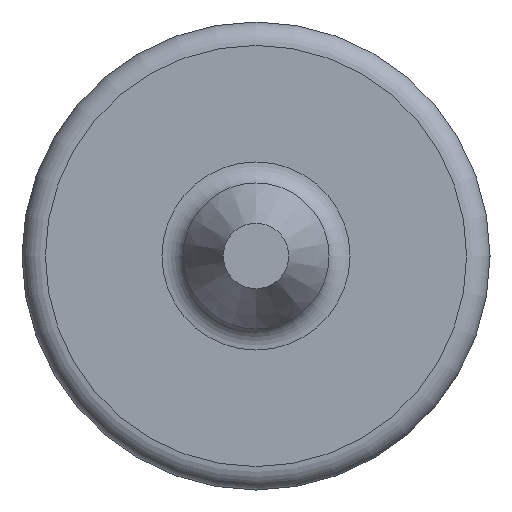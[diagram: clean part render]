
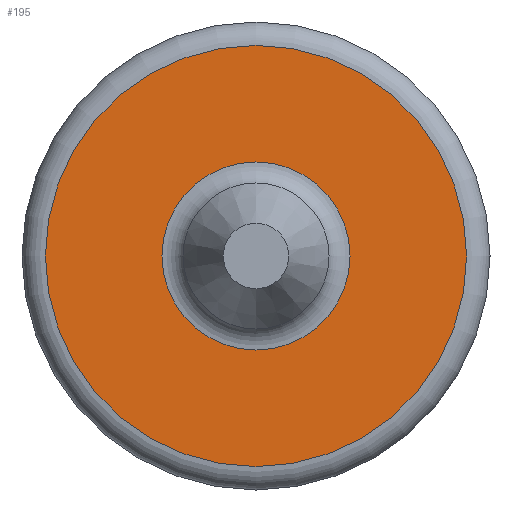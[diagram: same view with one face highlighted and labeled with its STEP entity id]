
A CAD part, left-side view. The second image highlights one B-rep face of the part: STEP entity #195.
In plain terms, the highlighted planar face has unit normal (-1, 0, 0).
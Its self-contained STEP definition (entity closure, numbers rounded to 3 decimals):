
#22=PLANE('',#222);
#31=FACE_BOUND('',#70,.T.);
#46=FACE_OUTER_BOUND('',#69,.T.);
#69=EDGE_LOOP('',(#149));
#70=EDGE_LOOP('',(#150));
#95=CIRCLE('',#220,1.005);
#97=CIRCLE('',#223,2.25);
#111=VERTEX_POINT('',#328);
#113=VERTEX_POINT('',#333);
#127=EDGE_CURVE('',#111,#111,#95,.T.);
#129=EDGE_CURVE('',#113,#113,#97,.T.);
#149=ORIENTED_EDGE('',*,*,#129,.F.);
#150=ORIENTED_EDGE('',*,*,#127,.F.);
#195=ADVANCED_FACE('',(#46,#31),#22,.T.);
#220=AXIS2_PLACEMENT_3D('',#329,#267,#268);
#222=AXIS2_PLACEMENT_3D('',#332,#271,#272);
#223=AXIS2_PLACEMENT_3D('',#334,#273,#274);
#267=DIRECTION('center_axis',(-1.,0.,0.));
#268=DIRECTION('ref_axis',(0.,0.,-1.));
#271=DIRECTION('center_axis',(-1.,0.,0.));
#272=DIRECTION('ref_axis',(0.,0.,1.));
#273=DIRECTION('center_axis',(1.,0.,0.));
#274=DIRECTION('ref_axis',(0.,0.,-1.));
#328=CARTESIAN_POINT('',(-5.5,0.,1.005));
#329=CARTESIAN_POINT('Origin',(-5.5,0.,0.));
#332=CARTESIAN_POINT('Origin',(-5.5,0.,0.85));
#333=CARTESIAN_POINT('',(-5.5,0.,2.25));
#334=CARTESIAN_POINT('Origin',(-5.5,0.,0.));
